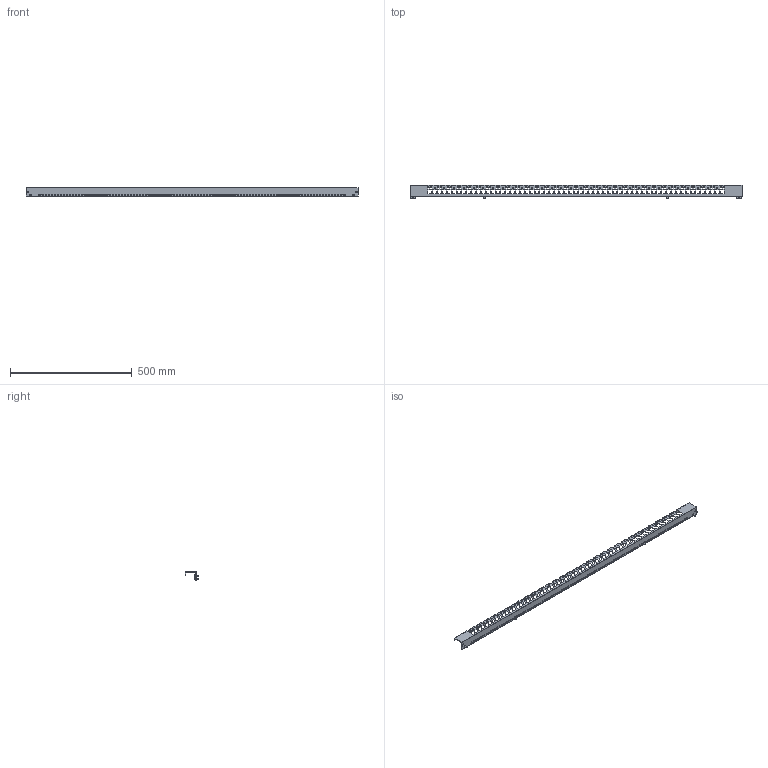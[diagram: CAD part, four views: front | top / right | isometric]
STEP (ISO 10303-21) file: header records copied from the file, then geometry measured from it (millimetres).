
FILE_DESCRIPTION(('Open CASCADE Model'),'2;1');
FILE_NAME('Open CASCADE Shape Model','2025-02-21T17:27:18',('Author'),( 'Open CASCADE'),'Open CASCADE STEP processor 7.8','Open CASCADE 7.8' ,'Unknown');
FILE_SCHEMA(('AUTOMOTIVE_DESIGN { 1 0 10303 214 1 1 1 1 }'));
Length unit declared in the file: millimetre
Products named in the file (3): Compound1; Solid1; Solid2
Assembly tree (7 placements, depth 2):
  Compound1
    Solid1
    Solid2  x6
Bounding box: 1362 x 53.5 x 35 mm (x, y, z)
Volume: 196225 mm3; surface area: 221547.8 mm2
Topology: 7 solids, 7 shells, 1029 faces, 3290 edges, 2219 vertices
Faces by surface type: plane 816, cylinder 177, torus 12, cone 12, sphere 6, bspline 6
Full cylindrical faces by diameter (mm): 4.4 x60, 5 x6, 6 x105, 9.5 x6
Entity records: 35484 total; most frequent: CARTESIAN_POINT 6767, ORIENTED_EDGE 6278, DIRECTION 5346, EDGE_CURVE 3139, LINE 2484, VECTOR 2484, VERTEX_POINT 2134, AXIS2_PLACEMENT_3D 1431
